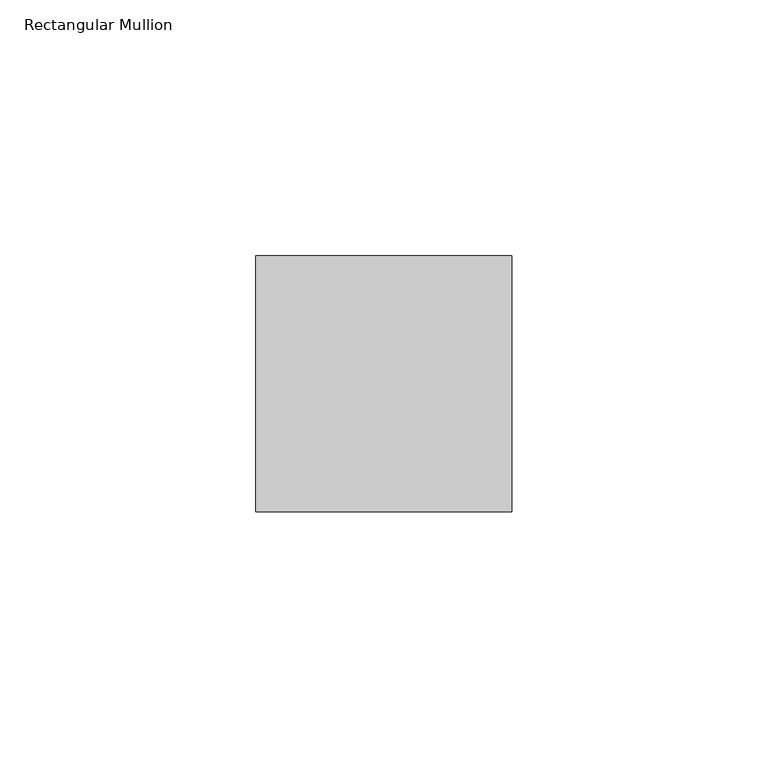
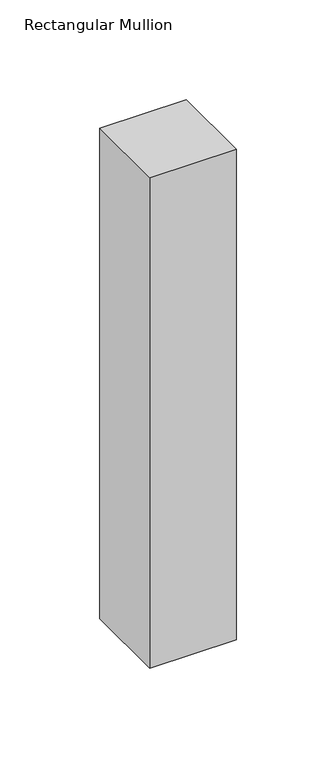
"""IFC4 building model written with IfcOpenShell, lengths in millimetres: member geometry, Rectangular Mullion : RSen_21_CWM_support profile 50x50 - right_gen_duco projects."""

from ifc_helpers import new_model, si_unit, frame, origin, place, context, project, spatial, polyline, outline, extrude, source, transform, mapped, element, save


def rectangular_mullion_d9db7a7c(model_context):
    return source(origin(), model_context, "Body", "SweptSolid", [
        extrude(outline(polyline([(-50.0, 1.0), (0.0, 1.0), (0.0, -49.0), (-50.0, -49.0), (-50.0, 1.0)])), frame((0.0, 0.0, -300.0), z_axis=(0.0, 0.0, 1.0), x_axis=(1.0, 0.0, 0.0)), (0.0, 0.0, 1.0), 300.0),
    ])


if __name__ == "__main__":
    model = new_model("IFC4")
    model_context = context("Model", 3, world=origin())
    ifc_project = project(units=[si_unit("LENGTHUNIT", "METRE", prefix="MILLI")], contexts=[model_context])
    site = spatial("IfcSite", under=ifc_project)
    building = spatial("IfcBuilding", under=site)
    placement = place(None, origin())
    rectangular_mullion_shape = rectangular_mullion_d9db7a7c(model_context)
    element("IfcMember", 1, ObjectType="Rectangular Mullion : RSen_21_CWM_support profile 50x50 - right_gen_duco projects", at=placement, inside=building, context=model_context, shape_type="MappedRepresentation", body=[
        mapped(rectangular_mullion_shape, transform((0.0, 0.0, 0.0), x_axis=(1.0, 0.0, 0.0), y_axis=(0.0, 1.0, 0.0), z_axis=(0.0, 0.0, 1.0))),
    ])
    save(model, "model.ifc")
